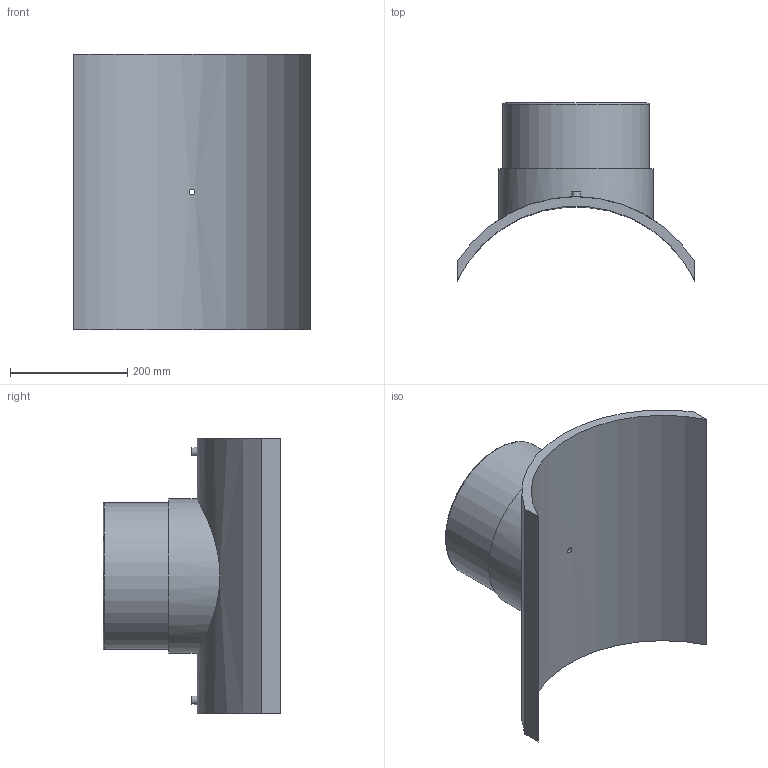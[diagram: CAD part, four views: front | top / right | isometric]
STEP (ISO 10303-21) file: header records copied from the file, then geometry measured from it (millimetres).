
FILE_DESCRIPTION(/* description */ ('PLASSON BRANCH SADDLE 450x250'),/* implementation_level */ '2;1');
FILE_NAME(/* name */ 'C:\Dropbox\KIMPROJECTS-Inventor 2019\99-16-3568-Processing\ElectroFusion Fittings\495803\stp\495803450250T.stp',/* time_stamp */ '2024-04-04T11:48:44+02:00',/* author */ ('KIM'),/* organization */ (''),/* preprocessor_version */ 'ST-DEVELOPER v17.2',/* originating_system */ 'Autodesk Inventor 2019',/* authorisation */ '');
FILE_SCHEMA (('AUTOMOTIVE_DESIGN { 1 0 10303 214 3 1 1 }'));
Length unit declared in the file: millimetre
Products named in the file (1): 495803450250T
Bounding box: 405 x 302.92 x 470 mm (x, y, z)
Volume: 7109873 mm3; surface area: 765571.5 mm2
Topology: 1 solids, 1 shells, 29 faces, 60 edges, 43 vertices
Faces by surface type: plane 13, cylinder 12, torus 2, cone 2
Full cylindrical faces by diameter (mm): 4 x2, 9.6 x1, 10 x2, 16 x1, 200 x1, 250 x1, 262.5 x1
Entity records: 1086 total; most frequent: CARTESIAN_POINT 400, DIRECTION 139, ORIENTED_EDGE 120, EDGE_CURVE 60, AXIS2_PLACEMENT_3D 60, VERTEX_POINT 43, EDGE_LOOP 41, CIRCLE 30
